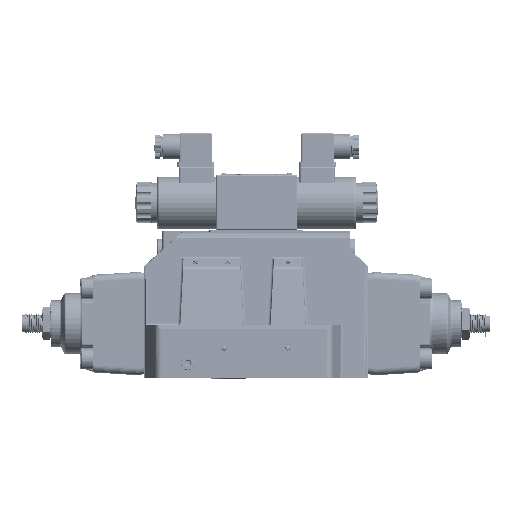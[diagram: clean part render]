
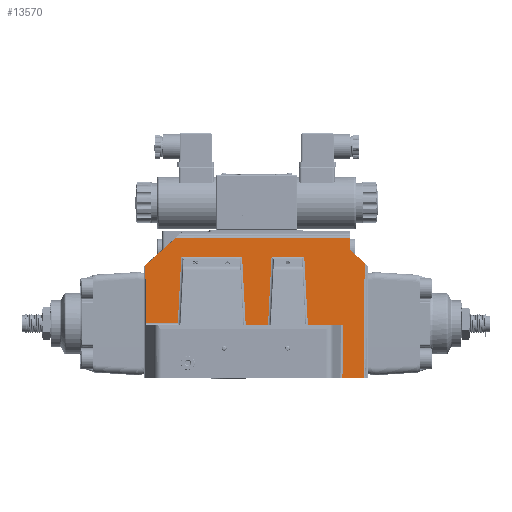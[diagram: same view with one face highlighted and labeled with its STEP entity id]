
A CAD part, front view. The second image highlights one B-rep face of the part: STEP entity #13570.
In plain terms, the highlighted planar face has unit normal (0.006, -1, 0.017).
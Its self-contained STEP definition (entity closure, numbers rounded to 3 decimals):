
#430=ELLIPSE('',#104327,93.126,1.539);
#431=ELLIPSE('',#104328,242.033,4.);
#5881=FACE_OUTER_BOUND('',#45173,.T.);
#13570=ADVANCED_FACE('',(#5881),#19030,.F.);
#19030=PLANE('',#104329);
#23000=LINE('',#153513,#33066);
#23018=LINE('',#153589,#33084);
#23029=LINE('',#153648,#33095);
#23035=LINE('',#153704,#33101);
#23043=LINE('',#153743,#33109);
#23054=LINE('',#153802,#33120);
#23075=LINE('',#153958,#33141);
#23078=LINE('',#153964,#33144);
#23079=LINE('',#153970,#33145);
#23082=LINE('',#153974,#33148);
#23083=LINE('',#153978,#33149);
#23089=LINE('',#153997,#33155);
#23090=LINE('',#153999,#33156);
#23091=LINE('',#154001,#33157);
#23121=LINE('',#154258,#33187);
#23122=LINE('',#154260,#33188);
#33066=VECTOR('',#111608,1.);
#33084=VECTOR('',#111674,1.);
#33095=VECTOR('',#111729,1.);
#33101=VECTOR('',#111751,1.);
#33109=VECTOR('',#111785,1.);
#33120=VECTOR('',#111814,1.);
#33141=VECTOR('',#111895,1.);
#33144=VECTOR('',#111902,1.);
#33145=VECTOR('',#111909,1.);
#33148=VECTOR('',#111914,1.);
#33149=VECTOR('',#111919,1.);
#33155=VECTOR('',#111949,1.);
#33156=VECTOR('',#111952,1.);
#33157=VECTOR('',#111955,1.);
#33187=VECTOR('',#112055,1.);
#33188=VECTOR('',#112058,1.);
#45173=EDGE_LOOP('',(#52342,#52343,#52344,#52345,#52346,#52347,#52348,#52349,
#52350,#52351,#52352,#52353,#52354,#52355,#52356,#52357,#52358,#52359));
#52342=ORIENTED_EDGE('',*,*,#88728,.F.);
#52343=ORIENTED_EDGE('',*,*,#88994,.T.);
#52344=ORIENTED_EDGE('',*,*,#88980,.F.);
#52345=ORIENTED_EDGE('',*,*,#88896,.T.);
#52346=ORIENTED_EDGE('',*,*,#88908,.T.);
#52347=ORIENTED_EDGE('',*,*,#88920,.T.);
#52348=ORIENTED_EDGE('',*,*,#88906,.T.);
#52349=ORIENTED_EDGE('',*,*,#88762,.T.);
#52350=ORIENTED_EDGE('',*,*,#88903,.T.);
#52351=ORIENTED_EDGE('',*,*,#88919,.T.);
#52352=ORIENTED_EDGE('',*,*,#88900,.T.);
#52353=ORIENTED_EDGE('',*,*,#88789,.F.);
#52354=ORIENTED_EDGE('',*,*,#88979,.T.);
#52355=ORIENTED_EDGE('',*,*,#88804,.T.);
#52356=ORIENTED_EDGE('',*,*,#88995,.F.);
#52357=ORIENTED_EDGE('',*,*,#88824,.F.);
#52358=ORIENTED_EDGE('',*,*,#88845,.F.);
#52359=ORIENTED_EDGE('',*,*,#88921,.F.);
#79300=VERTEX_POINT('',#153512);
#79301=VERTEX_POINT('',#153514);
#79334=VERTEX_POINT('',#153588);
#79335=VERTEX_POINT('',#153590);
#79361=VERTEX_POINT('',#153649);
#79362=VERTEX_POINT('',#153650);
#79376=VERTEX_POINT('',#153703);
#79377=VERTEX_POINT('',#153705);
#79394=VERTEX_POINT('',#153742);
#79395=VERTEX_POINT('',#153744);
#79413=VERTEX_POINT('',#153801);
#79442=VERTEX_POINT('',#153948);
#79445=VERTEX_POINT('',#153959);
#79446=VERTEX_POINT('',#153965);
#79447=VERTEX_POINT('',#153969);
#79448=VERTEX_POINT('',#153975);
#79449=VERTEX_POINT('',#153979);
#79490=VERTEX_POINT('',#154261);
#88728=EDGE_CURVE('',#79300,#79301,#23000,.T.);
#88762=EDGE_CURVE('',#79335,#79334,#23018,.T.);
#88789=EDGE_CURVE('',#79361,#79362,#23029,.T.);
#88804=EDGE_CURVE('',#79377,#79376,#23035,.T.);
#88824=EDGE_CURVE('',#79394,#79395,#23043,.T.);
#88845=EDGE_CURVE('',#79413,#79394,#23054,.T.);
#88896=EDGE_CURVE('',#79445,#79442,#23075,.T.);
#88900=EDGE_CURVE('',#79446,#79362,#23078,.T.);
#88903=EDGE_CURVE('',#79334,#79447,#23079,.T.);
#88906=EDGE_CURVE('',#79448,#79335,#23082,.T.);
#88908=EDGE_CURVE('',#79442,#79449,#23083,.T.);
#88919=EDGE_CURVE('',#79447,#79446,#23089,.T.);
#88920=EDGE_CURVE('',#79449,#79448,#23090,.T.);
#88921=EDGE_CURVE('',#79301,#79413,#23091,.T.);
#88979=EDGE_CURVE('',#79361,#79377,#23121,.T.);
#88980=EDGE_CURVE('',#79445,#79490,#23122,.T.);
#88994=EDGE_CURVE('',#79300,#79490,#430,.T.);
#88995=EDGE_CURVE('',#79395,#79376,#431,.T.);
#104327=AXIS2_PLACEMENT_3D('',#154284,#112080,#112081);
#104328=AXIS2_PLACEMENT_3D('',#154285,#112082,#112083);
#104329=AXIS2_PLACEMENT_3D('',#154286,#112084,#112085);
#111608=DIRECTION('',(0.742,0.016,0.67));
#111674=DIRECTION('',(1.,0.007,0.));
#111729=DIRECTION('',(-1.,-0.007,0.));
#111751=DIRECTION('',(1.,0.007,0.));
#111785=DIRECTION('',(0.742,-0.006,-0.67));
#111814=DIRECTION('',(0.,-0.017,-1.));
#111895=DIRECTION('',(1.,0.007,0.));
#111902=DIRECTION('',(0.052,-0.016,-0.998));
#111909=DIRECTION('',(0.052,0.017,0.998));
#111914=DIRECTION('',(0.052,-0.016,-0.998));
#111919=DIRECTION('',(0.052,0.017,0.998));
#111949=DIRECTION('',(1.,0.007,0.));
#111952=DIRECTION('',(1.,0.007,0.));
#111955=DIRECTION('',(1.,0.007,0.));
#112055=DIRECTION('',(-0.006,-0.017,-1.));
#112058=DIRECTION('',(-0.006,0.016,1.));
#112080=DIRECTION('',(-0.007,1.,-0.017));
#112081=DIRECTION('',(0.,-0.017,-1.));
#112082=DIRECTION('',(0.007,-1.,0.017));
#112083=DIRECTION('',(0.,-0.017,-1.));
#112084=DIRECTION('',(-0.007,1.,-0.017));
#112085=DIRECTION('',(1.,0.007,0.));
#153512=CARTESIAN_POINT('',(234.811,166.58,95.904));
#153513=CARTESIAN_POINT('',(249.105,166.887,108.816));
#153514=CARTESIAN_POINT('',(260.416,167.129,119.033));
#153588=CARTESIAN_POINT('',(339.308,166.411,44.5));
#153589=CARTESIAN_POINT('',(345.854,166.453,44.5));
#153590=CARTESIAN_POINT('',(320.32,166.287,44.5));
#153648=CARTESIAN_POINT('',(388.655,166.732,44.5));
#153649=CARTESIAN_POINT('',(403.1,166.826,44.5));
#153650=CARTESIAN_POINT('',(373.319,166.632,44.5));
#153703=CARTESIAN_POINT('',(420.944,166.206,0.));
#153704=CARTESIAN_POINT('',(403.204,166.091,0.));
#153705=CARTESIAN_POINT('',(402.829,166.088,0.));
#153742=CARTESIAN_POINT('',(409.306,167.932,109.));
#153743=CARTESIAN_POINT('',(424.349,167.806,95.413));
#153744=CARTESIAN_POINT('',(421.78,167.827,97.734));
#153801=CARTESIAN_POINT('',(409.305,168.098,119.033));
#153802=CARTESIAN_POINT('',(409.306,167.925,108.59));
#153948=CARTESIAN_POINT('',(262.413,165.943,46.467));
#153958=CARTESIAN_POINT('',(233.278,165.753,46.467));
#153959=CARTESIAN_POINT('',(235.091,165.765,46.467));
#153964=CARTESIAN_POINT('',(369.141,167.922,124.201));
#153965=CARTESIAN_POINT('',(370.239,167.583,103.266));
#153969=CARTESIAN_POINT('',(342.376,167.402,103.266));
#153970=CARTESIAN_POINT('',(341.885,167.243,93.869));
#153974=CARTESIAN_POINT('',(316.287,167.532,121.437));
#153975=CARTESIAN_POINT('',(317.24,167.238,103.266));
#153978=CARTESIAN_POINT('',(264.92,166.753,94.5));
#153979=CARTESIAN_POINT('',(265.378,166.901,103.266));
#153997=CARTESIAN_POINT('',(403.192,167.798,103.266));
#153999=CARTESIAN_POINT('',(403.192,167.798,103.266));
#154001=CARTESIAN_POINT('',(233.808,166.956,119.033));
#154258=CARTESIAN_POINT('',(403.596,168.175,125.957));
#154260=CARTESIAN_POINT('',(234.606,167.059,124.959));
#154261=CARTESIAN_POINT('',(234.811,166.511,91.706));
#154284=CARTESIAN_POINT('',(233.273,166.543,94.271));
#154285=CARTESIAN_POINT('',(424.824,165.232,-60.483));
#154286=CARTESIAN_POINT('',(403.19,168.173,125.982));
